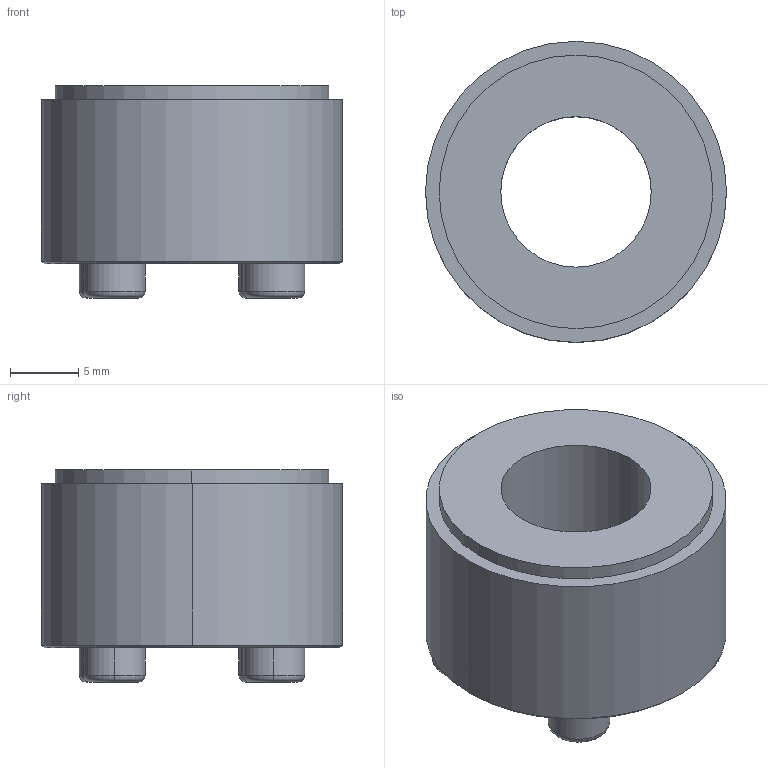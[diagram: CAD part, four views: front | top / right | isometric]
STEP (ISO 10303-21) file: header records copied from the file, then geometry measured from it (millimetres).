
FILE_DESCRIPTION (( 'STEP AP203' ), '1' );
FILE_NAME ('PL-B 11-22.STEP', '2021-10-22T07:44:50', ( '' ), ( '' ), 'SwSTEP 2.0', 'SolidWorks 2018', '' );
FILE_SCHEMA (( 'CONFIG_CONTROL_DESIGN' ));
Length unit declared in the file: millimetre
Products named in the file (1): PL-B 11-22
Bounding box: 22 x 22 x 15.5 mm (x, y, z)
Volume: 3779.2 mm3; surface area: 2058.8 mm2
Topology: 1 solids, 1 shells, 61 faces, 138 edges, 88 vertices
Faces by surface type: plane 35, cylinder 14, torus 8, cone 4
Entity records: 1785 total; most frequent: DIRECTION 310, CARTESIAN_POINT 288, ORIENTED_EDGE 276, EDGE_CURVE 138, AXIS2_PLACEMENT_3D 110, LINE 90, VECTOR 90, VERTEX_POINT 88
